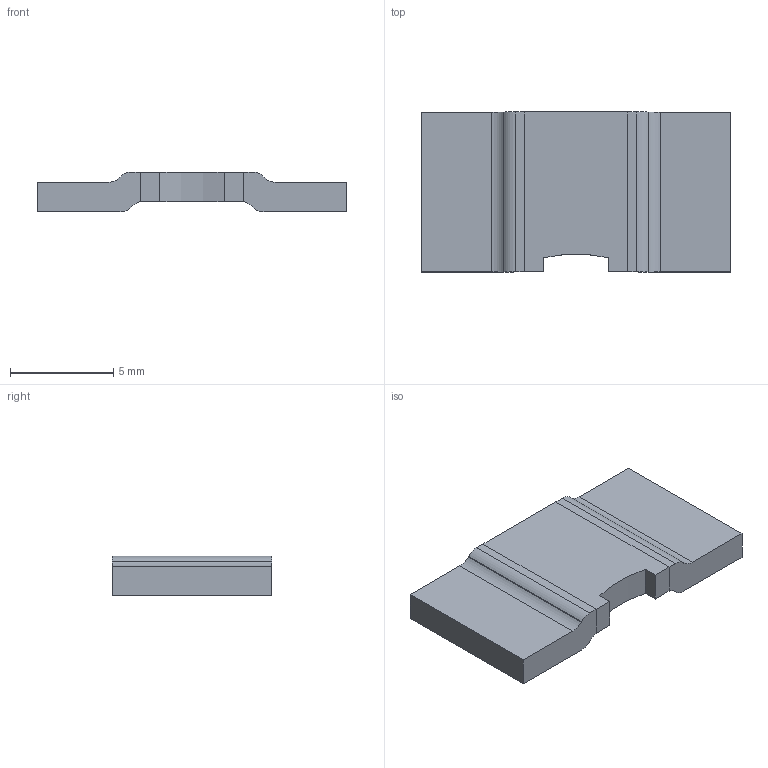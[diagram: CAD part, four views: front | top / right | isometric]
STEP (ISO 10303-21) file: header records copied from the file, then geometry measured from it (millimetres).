
FILE_DESCRIPTION(/* description */ (''),/* implementation_level */ '2;1');
FILE_NAME(/* name */ 'C:\Users\Public\Documents\Autodesk\Inventor LT 2014\Workspace\Vishay\STEP Files\WSLP5931 (0.1mohm).stp',/* time_stamp */ '2021-09-16T15:30:42-05:00',/* author */ ('Neil'),/* organization */ (''),/* preprocessor_version */ 'ST-DEVELOPER v15.2',/* originating_system */ 'Autodesk Inventor LT ',/* authorisation */ '');
FILE_SCHEMA (('AUTOMOTIVE_DESIGN { 1 0 10303 214 3 1 1 }'));
Length unit declared in the file: millimetre
Products named in the file (1): WSLP5931 (0.1mohm)
Bounding box: 15 x 7.75 x 1.92 mm (x, y, z)
Volume: 166.2 mm3; surface area: 343.8 mm2
Topology: 3 solids, 3 shells, 36 faces, 90 edges, 60 vertices
Faces by surface type: plane 27, cylinder 9
Entity records: 1115 total; most frequent: CARTESIAN_POINT 187, DIRECTION 182, ORIENTED_EDGE 180, EDGE_CURVE 90, LINE 72, VECTOR 72, VERTEX_POINT 60, AXIS2_PLACEMENT_3D 55
